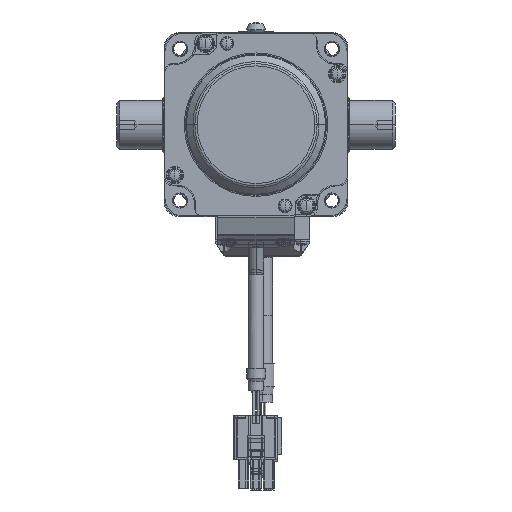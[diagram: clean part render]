
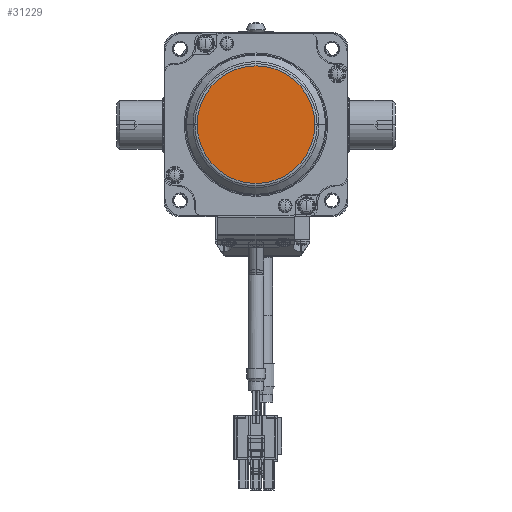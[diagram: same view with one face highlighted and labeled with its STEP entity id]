
A CAD part, front view. The second image highlights one B-rep face of the part: STEP entity #31229.
In plain terms, the highlighted planar face has unit normal (0, -1, 0) as drawn and (-1, 0, 0) by its records, which use the part's own axes.
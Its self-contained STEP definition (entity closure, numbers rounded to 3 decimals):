
#23971=CARTESIAN_POINT('',(-67.5,0.,0.));
#23972=DIRECTION('',(-1.,0.,0.));
#23973=DIRECTION('',(0.,0.,-1.));
#23974=AXIS2_PLACEMENT_3D('',#23971,#23972,#23973);
#23976=CARTESIAN_POINT('',(-67.5,0.,0.));
#23977=DIRECTION('',(-1.,0.,0.));
#23978=DIRECTION('',(0.,0.,1.));
#23979=AXIS2_PLACEMENT_3D('',#23976,#23977,#23978);
#25409=CARTESIAN_POINT('',(-67.5,0.,-19.191));
#25411=VERTEX_POINT('',#25409);
#25415=CARTESIAN_POINT('',(-67.5,0.,19.191));
#25416=VERTEX_POINT('',#25415);
#31219=CARTESIAN_POINT('',(-67.5,-17.,27.));
#31220=DIRECTION('',(1.,0.,0.));
#31221=DIRECTION('',(0.,0.,-1.));
#31222=AXIS2_PLACEMENT_3D('',#31219,#31220,#31221);
#31223=PLANE('',#31222);
#31224=ORIENTED_EDGE('',*,*,#31209,.F.);
#31226=ORIENTED_EDGE('',*,*,#31225,.F.);
#31227=EDGE_LOOP('',(#31224,#31226));
#31228=FACE_OUTER_BOUND('',#31227,.F.);
#31229=ADVANCED_FACE('',(#31228),#31223,.F.);
#23975=CIRCLE('',#23974,19.191);
#23980=CIRCLE('',#23979,19.191);
#31209=EDGE_CURVE('',#25411,#25416,#23975,.T.);
#31225=EDGE_CURVE('',#25416,#25411,#23980,.T.);
